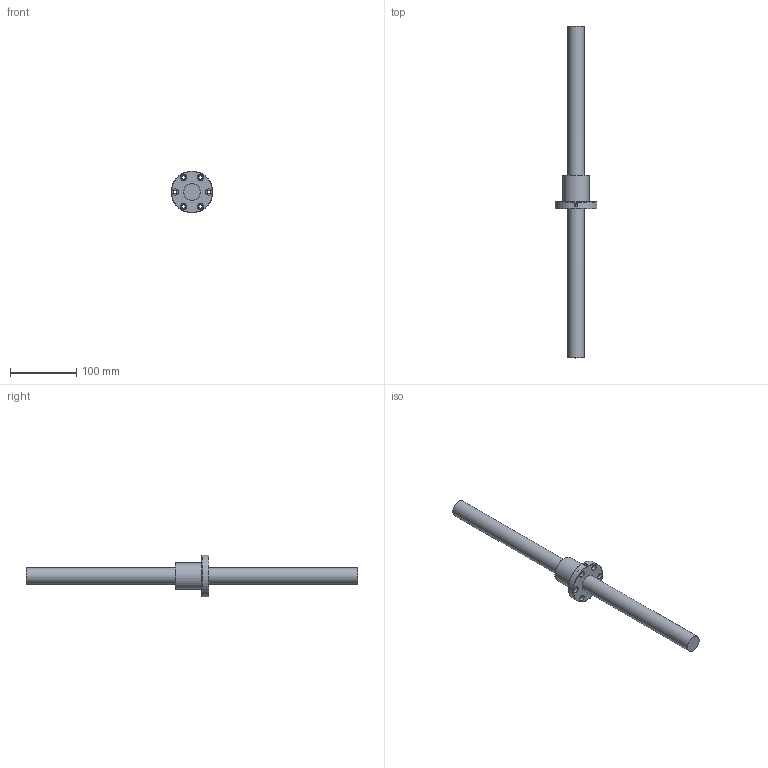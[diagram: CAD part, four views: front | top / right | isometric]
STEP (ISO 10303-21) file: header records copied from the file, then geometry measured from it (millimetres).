
FILE_DESCRIPTION (( 'STEP AP203' ), '1' );
FILE_NAME ('SFNI2505.STEP', '2023-06-05T04:00:10', ( '' ), ( '' ), 'SwSTEP 2.0', 'SolidWorks 2022', '' );
FILE_SCHEMA (( 'CONFIG_CONTROL_DESIGN' ));
Length unit declared in the file: millimetre
Products named in the file (1): SFNI2505
Bounding box: 63 x 500 x 63 mm (x, y, z)
Volume: 301729.9 mm3; surface area: 58069.9 mm2
Topology: 2 solids, 2 shells, 34 faces, 66 edges, 44 vertices
Faces by surface type: cylinder 19, plane 12, torus 3
Full cylindrical faces by diameter (mm): 4 x1, 5 x1, 5.5 x6, 9.5 x6, 25 x2, 40 x1, 63 x1
Entity records: 1133 total; most frequent: CARTESIAN_POINT 399, DIRECTION 145, ORIENTED_EDGE 82, EDGE_LOOP 80, AXIS2_PLACEMENT_3D 72, FACE_OUTER_BOUND 55, VERTEX_POINT 41, EDGE_CURVE 41
